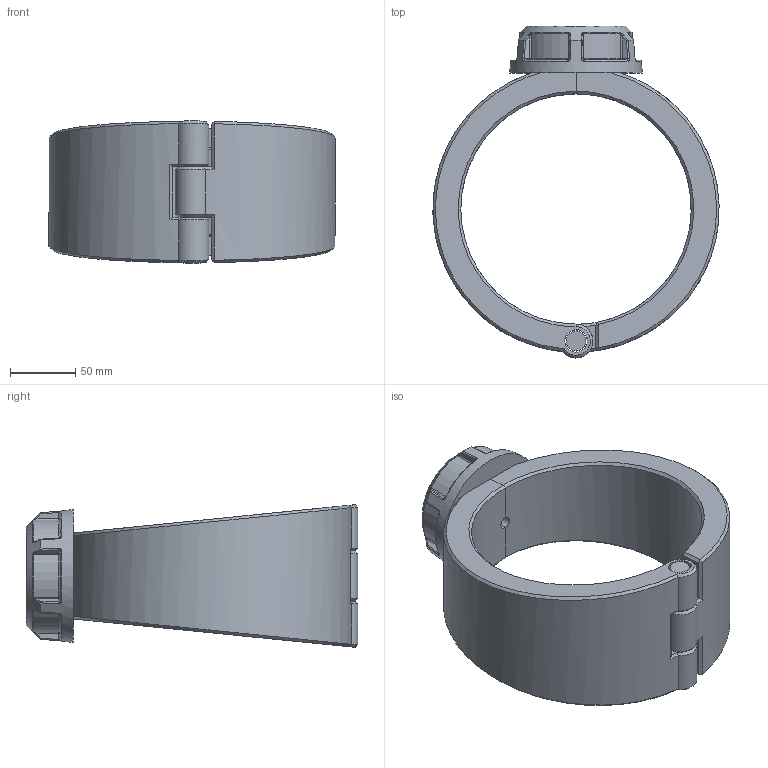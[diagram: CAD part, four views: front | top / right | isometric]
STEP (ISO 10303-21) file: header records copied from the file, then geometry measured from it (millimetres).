
FILE_DESCRIPTION(/* description */ ('Plassadle Threaded 177x1/2'''''),/* implementation_level */ '2;1');
FILE_NAME(/* name */ 'C:\Users\comp2\Dropbox\99-16-3568-Processing\Mechanical Fittings\16300\stp\163000177005.stp',/* time_stamp */ '2022-02-03T11:51:46+00:00',/* author */ ('comp2'),/* organization */ (''),/* preprocessor_version */ 'ST-DEVELOPER v17.2',/* originating_system */ 'Autodesk Inventor 2019',/* authorisation */ '');
FILE_SCHEMA (('AUTOMOTIVE_DESIGN { 1 0 10303 214 3 1 1 }'));
Length unit declared in the file: millimetre
Products named in the file (1): 163000177005
Bounding box: 219.89 x 254.99 x 109.6 mm (x, y, z)
Volume: 1361977.8 mm3; surface area: 177514 mm2
Topology: 4 solids, 4 shells, 203 faces, 486 edges, 293 vertices
Faces by surface type: bspline 58, plane 53, cylinder 47, torus 18, cone 15, sphere 12
Full cylindrical faces by diameter (mm): 9.316 x1, 15.3 x1, 15.836 x1, 17.3 x3, 18.631 x1, 27.947 x1
Entity records: 8259 total; most frequent: CARTESIAN_POINT 3912, ORIENTED_EDGE 972, DIRECTION 781, EDGE_CURVE 486, AXIS2_PLACEMENT_3D 330, VERTEX_POINT 293, EDGE_LOOP 213, FACE_OUTER_BOUND 203
